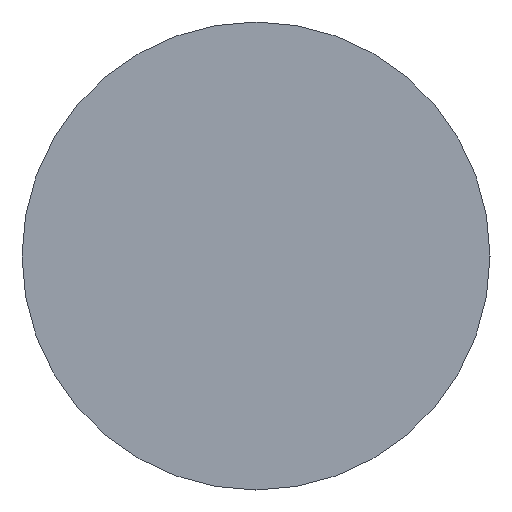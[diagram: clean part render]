
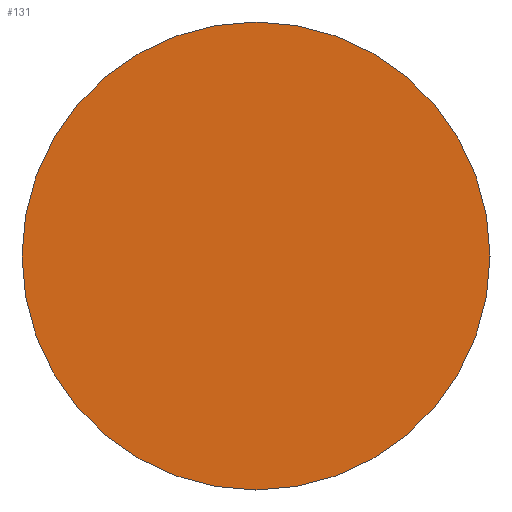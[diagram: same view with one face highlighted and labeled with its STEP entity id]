
A CAD part, left-side view. The second image highlights one B-rep face of the part: STEP entity #131.
In plain terms, the highlighted planar face has unit normal (-1, 0, 0).
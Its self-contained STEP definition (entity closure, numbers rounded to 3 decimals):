
#2 = VERTEX_POINT ( 'NONE', #179 ) ;
#33 = EDGE_LOOP ( 'NONE', ( #539, #506 ) ) ;
#131 = ADVANCED_FACE ( 'NONE', ( #334 ), #335, .F. ) ;
#157 = EDGE_CURVE ( 'NONE', #2, #495, #201, .T. ) ;
#179 = CARTESIAN_POINT ( 'NONE',  ( 0., 0., -8.5 ) ) ;
#201 = CIRCLE ( 'NONE', #202, 8.5 ) ;
#202 = AXIS2_PLACEMENT_3D ( 'NONE', #203, #204, #205 ) ;
#203 = CARTESIAN_POINT ( 'NONE',  ( 0., 0., 0. ) ) ;
#204 = DIRECTION ( 'NONE',  ( -1., 0., 0. ) ) ;
#205 = DIRECTION ( 'NONE',  ( 0., 0., 1. ) ) ;
#234 = CARTESIAN_POINT ( 'NONE',  ( 0., 0., 8.5 ) ) ;
#334 = FACE_OUTER_BOUND ( 'NONE', #33, .T. ) ;
#335 = PLANE ( 'NONE',  #336 ) ;
#336 = AXIS2_PLACEMENT_3D ( 'NONE', #337, #339, #340 ) ;
#337 = CARTESIAN_POINT ( 'NONE',  ( 0., 8.5, 0. ) ) ;
#339 = DIRECTION ( 'NONE',  ( 1., 0., 0. ) ) ;
#340 = DIRECTION ( 'NONE',  ( 0., 0., -1. ) ) ;
#387 = CIRCLE ( 'NONE', #388, 8.5 ) ;
#388 = AXIS2_PLACEMENT_3D ( 'NONE', #389, #390, #391 ) ;
#389 = CARTESIAN_POINT ( 'NONE',  ( 0., 0., 0. ) ) ;
#390 = DIRECTION ( 'NONE',  ( -1., 0., 0. ) ) ;
#391 = DIRECTION ( 'NONE',  ( 0., 0., 1. ) ) ;
#495 = VERTEX_POINT ( 'NONE', #234 ) ;
#506 = ORIENTED_EDGE ( 'NONE', *, *, #157, .T. ) ;
#513 = EDGE_CURVE ( 'NONE', #495, #2, #387, .T. ) ;
#539 = ORIENTED_EDGE ( 'NONE', *, *, #513, .T. ) ;
